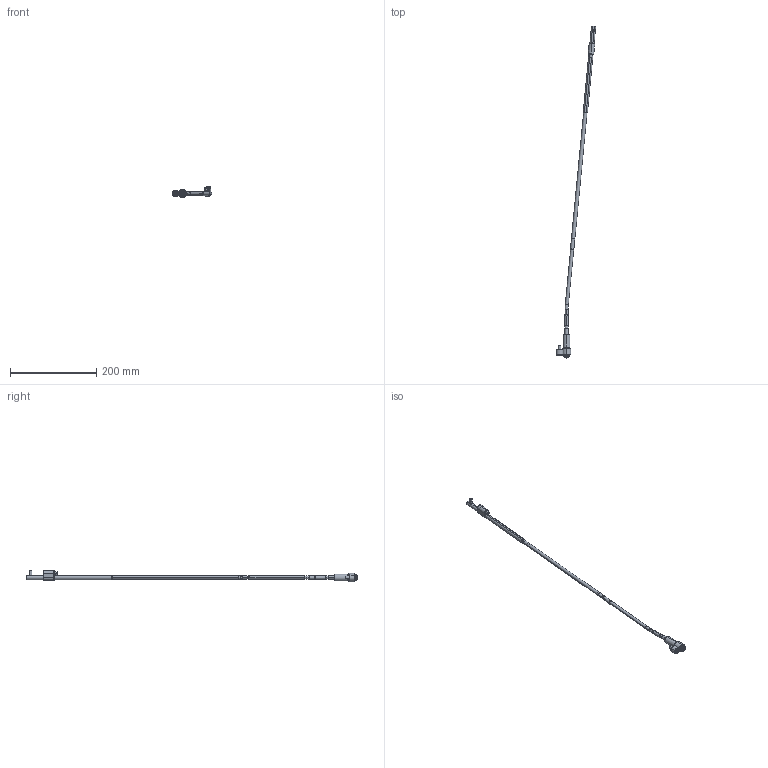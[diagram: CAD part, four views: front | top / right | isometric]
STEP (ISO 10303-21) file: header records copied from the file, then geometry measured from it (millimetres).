
FILE_DESCRIPTION (( 'STEP AP214' ), '1' );
FILE_NAME ('WL080125-EJE 5,5°.STEP', '2021-03-19T15:29:52', ( '' ), ( '' ), 'SwSTEP 2.0', 'SolidWorks 2019', '' );
FILE_SCHEMA (( 'AUTOMOTIVE_DESIGN' ));
Length unit declared in the file: millimetre
Products named in the file (17): WL080100-B_WL0800FF; Web-WL08-F01; Web-WL08-A3; WL080100-C; Web-WL08-A1; Web-WL08-A2; 1DIN912545_DIN 912 M5 x 50 --- 50C; 3IMAN4X2-150_con sello; Web-WL08-F00.SLDPRT; WL080100-B1_WL0800FF-1; Web-WP08-1; 9DR2206-TOR; WL080125-EJE 5,5°; WL080100-D; 1DIN912616_DIN 912 M6 x 16 --- 16C; Web-WL08XX-A7_ON-WL080125-5,5; WL080100-E
Assembly tree (16 placements, depth 3):
  WL080125-EJE 5,5°
    Web-WP08-1
    Web-WL08XX-A7_ON-WL080125-5,5
    Web-WL08-A3
    Web-WL08-A2
    Web-WL08-A1
    WL080100-D
    WL080100-C
    WL080100-B_WL0800FF
      WL080100-B1_WL0800FF-1
      3IMAN4X2-150_con sello
    WL080100-E
    9DR2206-TOR
    Web-WL08-F00.SLDPRT
      Web-WL08-F01
      1DIN912545_DIN 912 M5 x 50 --- 50C
      1DIN912616_DIN 912 M6 x 16 --- 16C
Bounding box: 91.58 x 769.41 x 26.9 mm (x, y, z)
Volume: 58700.2 mm3; surface area: 34415.2 mm2
Topology: 15 solids, 15 shells, 424 faces, 888 edges, 516 vertices
Faces by surface type: plane 132, cylinder 128, cone 116, torus 48
Entity records: 13492 total; most frequent: DIRECTION 2218, CARTESIAN_POINT 2045, ORIENTED_EDGE 1756, AXIS2_PLACEMENT_3D 921, EDGE_CURVE 878, VERTEX_POINT 516, CIRCLE 476, EDGE_LOOP 468
